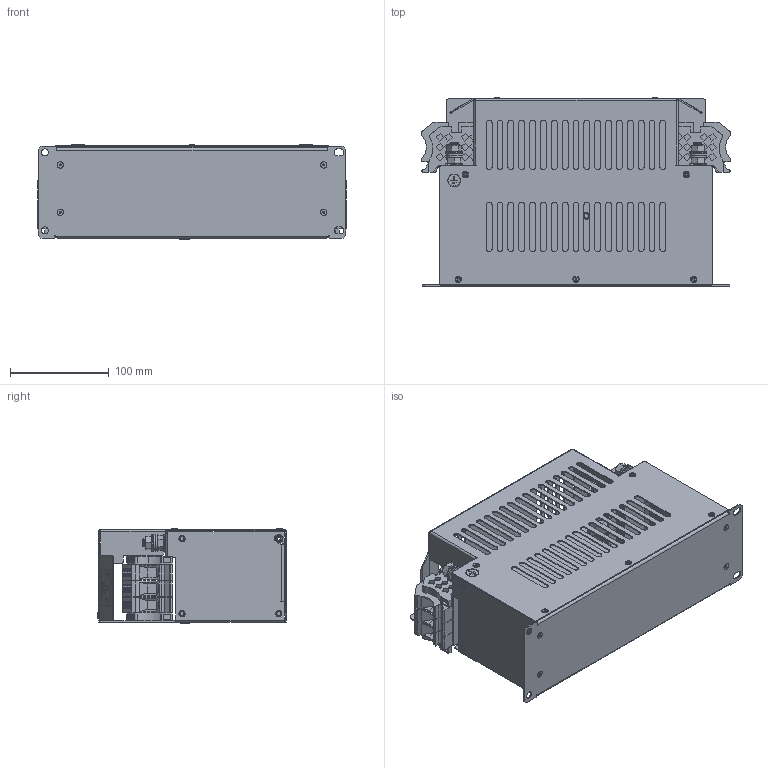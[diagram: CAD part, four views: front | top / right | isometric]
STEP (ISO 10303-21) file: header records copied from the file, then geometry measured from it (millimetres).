
FILE_DESCRIPTION((''),'2;1');
FILE_NAME('10001571307','2021-09-06T12:13:53',('PThakre'),('Rockwell Automation'),'CREO PARAMETRIC BY PTC INC, 2020281','CREO PARAMETRIC BY PTC INC, 2020281','');
FILE_SCHEMA(('CONFIG_CONTROL_DESIGN'));
Products named in the file (1): 10001571307
Bounding box: 313 x 191 x 95.77 mm (x, y, z)
Volume: 346371.3 mm3; surface area: 471556.6 mm2
Topology: 33 solids, 75 shells, 5376 faces, 14195 edges, 9282 vertices
Faces by surface type: plane 3260, cylinder 950, cone 845, extrusion 211, bspline 70, torus 40
Entity records: 176246 total; most frequent: CARTESIAN_POINT 41983, ORIENTED_EDGE 28390, DIRECTION 26914, EDGE_CURVE 14195, VECTOR 9700, LINE 9489, VERTEX_POINT 9282, AXIS2_PLACEMENT_3D 8607
